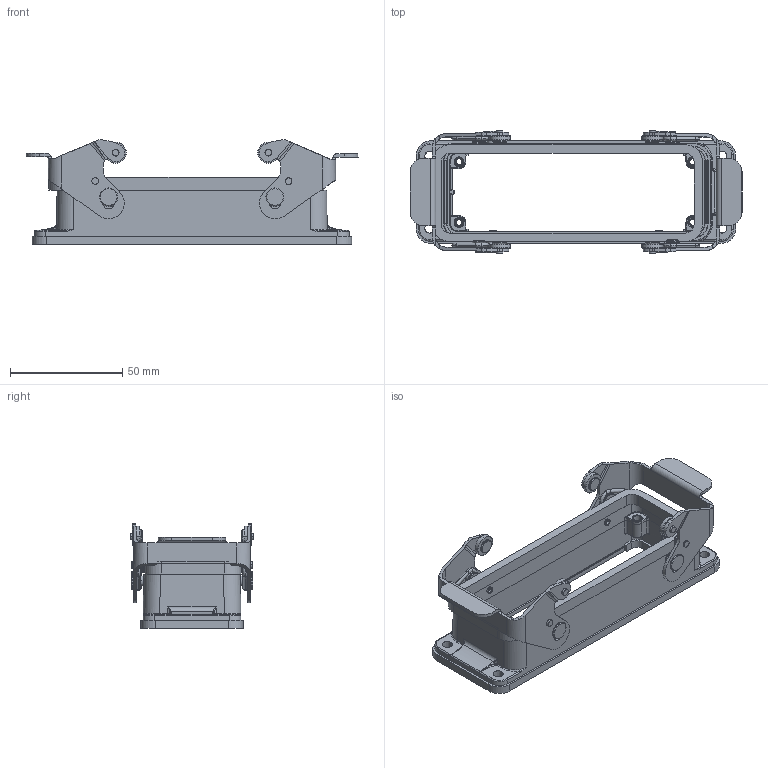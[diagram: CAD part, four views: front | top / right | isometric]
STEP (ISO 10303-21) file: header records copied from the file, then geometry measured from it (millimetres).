
FILE_DESCRIPTION (( 'STEP AP203' ), '1' );
FILE_NAME ('H24B-AG 7-7.STEP', '2020-07-07T02:33:23', ( '' ), ( '' ), 'SwSTEP 2.0', 'SolidWorks 2016', '' );
FILE_SCHEMA (( 'CONFIG_CONTROL_DESIGN' ));
Length unit declared in the file: millimetre
Products named in the file (1): H24B-AG 7-7
Bounding box: 147.79 x 55 x 46.62 mm (x, y, z)
Volume: 52588.4 mm3; surface area: 48609.1 mm2
Topology: 25 solids, 25 shells, 1074 faces, 2558 edges, 1565 vertices
Faces by surface type: cylinder 421, bspline 296, plane 261, cone 96
Entity records: 40756 total; most frequent: CARTESIAN_POINT 18186, ORIENTED_EDGE 5100, DIRECTION 4150, EDGE_CURVE 2550, AXIS2_PLACEMENT_3D 1600, VERTEX_POINT 1565, EDGE_LOOP 1183, FACE_OUTER_BOUND 1074
